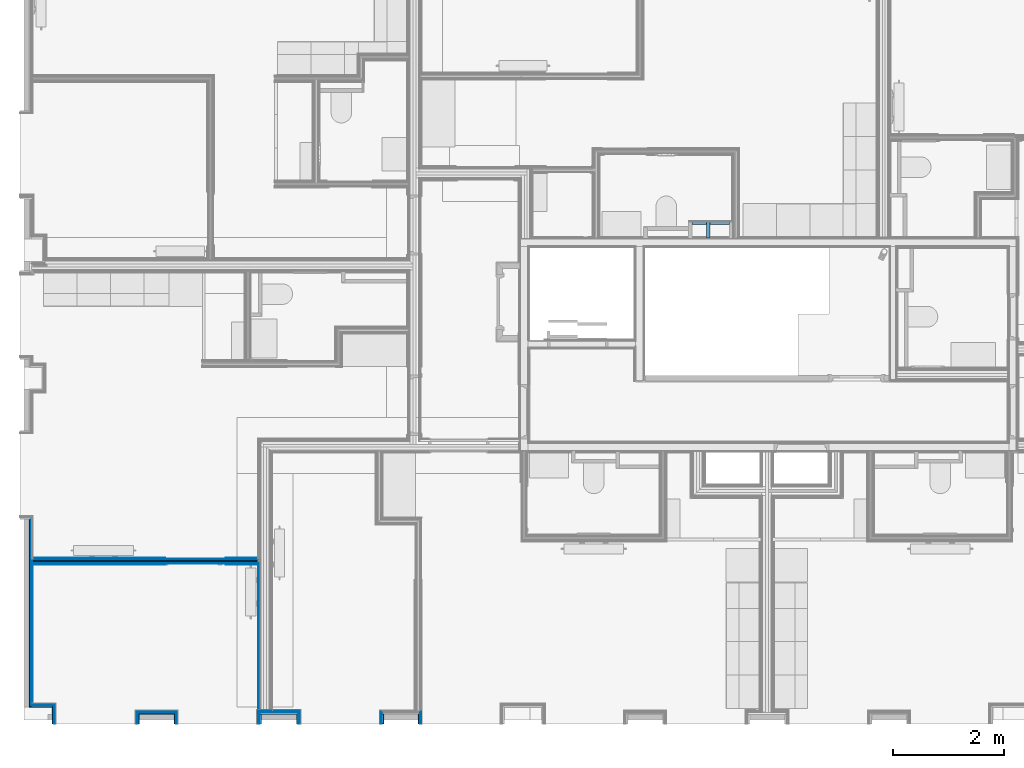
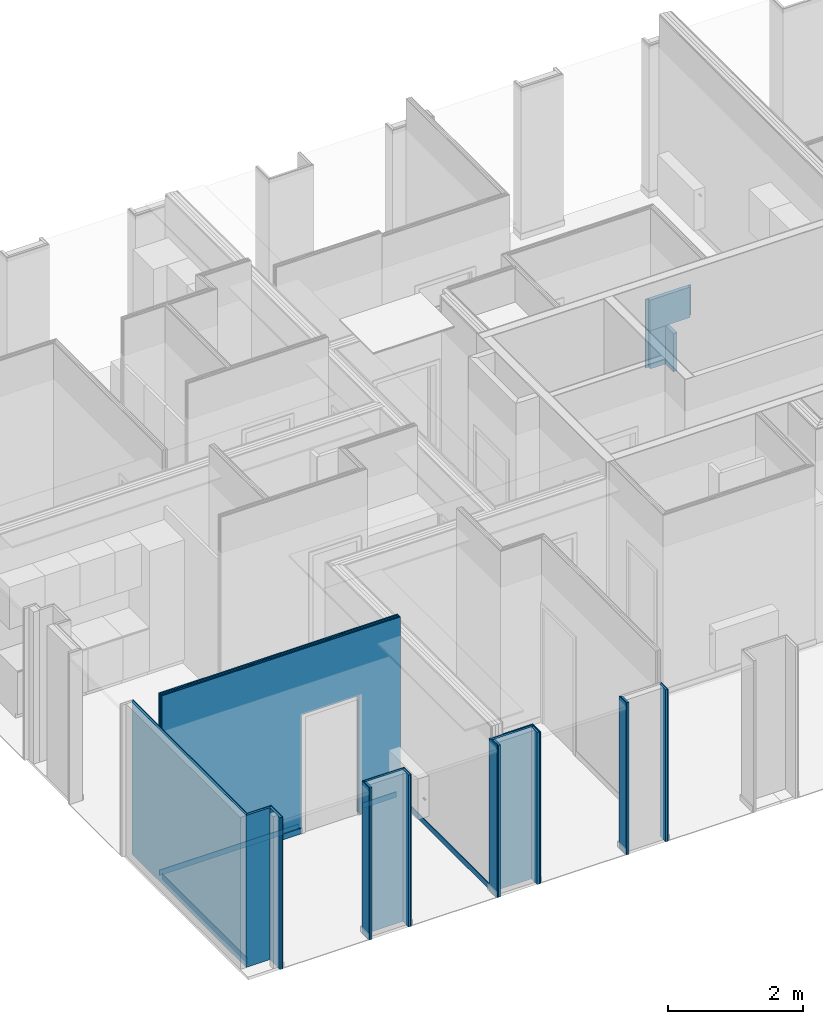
# One storey, part 9 of 64: 36 building element parts, 3 walls, 1 opening, 13 elements without a shape of their own.
"""IFC2X3 building model written with IfcOpenShell, lengths in metres."""

from ifc_helpers import new_model, entity, si_unit, converted_unit, derived_unit, money_unit, direction, frame, frame_2d, origin_with_axes, place, context, subcontext, project, spatial, polyline, rectangle, outline, extrude, material, layer, layer_set, layer_usage, type_object, element, aggregate, save


model = new_model("IFC2X3")

# Units and contexts
model_context = context("Model", 3, precision=1e-05, world=origin_with_axes(), true_north=direction((0.0, 1.0)))
body_context = subcontext(model_context, "Body", "Model", "MODEL_VIEW", scale=1.0)
ifc_project = project(units=[si_unit("LENGTHUNIT", "METRE"), si_unit("AREAUNIT", "SQUARE_METRE"), si_unit("VOLUMEUNIT", "CUBIC_METRE"), si_unit("ABSORBEDDOSEUNIT", "GRAY"), si_unit("AMOUNTOFSUBSTANCEUNIT", "MOLE"), si_unit("DOSEEQUIVALENTUNIT", "SIEVERT"), si_unit("ELECTRICCAPACITANCEUNIT", "FARAD"), si_unit("ELECTRICCHARGEUNIT", "COULOMB"), si_unit("ELECTRICCONDUCTANCEUNIT", "SIEMENS"), si_unit("ELECTRICCURRENTUNIT", "AMPERE"), si_unit("ELECTRICRESISTANCEUNIT", "OHM"), si_unit("ELECTRICVOLTAGEUNIT", "VOLT"), si_unit("ENERGYUNIT", "JOULE"), si_unit("FORCEUNIT", "NEWTON"), si_unit("FREQUENCYUNIT", "HERTZ"), si_unit("ILLUMINANCEUNIT", "LUX"), si_unit("INDUCTANCEUNIT", "HENRY"), si_unit("LUMINOUSFLUXUNIT", "LUMEN"), si_unit("LUMINOUSINTENSITYUNIT", "CANDELA"), si_unit("MAGNETICFLUXDENSITYUNIT", "TESLA"), si_unit("MAGNETICFLUXUNIT", "WEBER"), si_unit("MASSUNIT", "GRAM"), converted_unit("PLANEANGLEUNIT", "degree", entity("IfcReal", 0.0174532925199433), si_unit("PLANEANGLEUNIT", "RADIAN"), dimensions=[0, 0, 0, 0, 0, 0, 0]), si_unit("POWERUNIT", "WATT"), si_unit("PRESSUREUNIT", "PASCAL"), si_unit("RADIOACTIVITYUNIT", "BECQUEREL"), si_unit("SOLIDANGLEUNIT", "STERADIAN"), si_unit("THERMODYNAMICTEMPERATUREUNIT", "KELVIN"), si_unit("TIMEUNIT", "SECOND"), derived_unit("ACCELERATIONUNIT", [(si_unit("LENGTHUNIT", "METRE"), 1), (si_unit("TIMEUNIT", "SECOND"), -2)]), derived_unit("ANGULARVELOCITYUNIT", [(converted_unit("PLANEANGLEUNIT", "degree", entity("IfcReal", 0.0174532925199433), si_unit("PLANEANGLEUNIT", "RADIAN"), dimensions=[0, 0, 0, 0, 0, 0, 0]), 1), (si_unit("TIMEUNIT", "SECOND"), -1)]), derived_unit("CURVATUREUNIT", [(converted_unit("PLANEANGLEUNIT", "degree", entity("IfcReal", 0.0174532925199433), si_unit("PLANEANGLEUNIT", "RADIAN"), dimensions=[0, 0, 0, 0, 0, 0, 0]), 1), (si_unit("LENGTHUNIT", "METRE"), -1)]), derived_unit("DYNAMICVISCOSITYUNIT", [(si_unit("PRESSUREUNIT", "PASCAL"), 1), (si_unit("TIMEUNIT", "SECOND"), 1)]), derived_unit("HEATFLUXDENSITYUNIT", [(si_unit("POWERUNIT", "WATT"), 1), (si_unit("LENGTHUNIT", "METRE"), -2)]), derived_unit("HEATINGVALUEUNIT", [(si_unit("ENERGYUNIT", "JOULE"), 1), (si_unit("MASSUNIT", "GRAM"), -1)]), derived_unit("INTEGERCOUNTRATEUNIT", [(si_unit("TIMEUNIT", "SECOND"), -1)]), derived_unit("IONCONCENTRATIONUNIT", [(si_unit("MASSUNIT", "GRAM"), 1), (si_unit("VOLUMEUNIT", "CUBIC_METRE"), -1)]), derived_unit("ISOTHERMALMOISTURECAPACITYUNIT", [(si_unit("VOLUMEUNIT", "CUBIC_METRE"), 1), (si_unit("MASSUNIT", "GRAM"), -1)]), derived_unit("KINEMATICVISCOSITYUNIT", [(si_unit("AREAUNIT", "SQUARE_METRE"), 1), (si_unit("TIMEUNIT", "SECOND"), -1)]), derived_unit("LINEARFORCEUNIT", [(si_unit("FORCEUNIT", "NEWTON"), 1), (si_unit("LENGTHUNIT", "METRE"), -1)]), derived_unit("LINEARMOMENTUNIT", [(si_unit("FORCEUNIT", "NEWTON"), 1), (si_unit("LENGTHUNIT", "METRE"), -1)]), derived_unit("LINEARSTIFFNESSUNIT", [(si_unit("FORCEUNIT", "NEWTON"), 1), (si_unit("LENGTHUNIT", "METRE"), -1)]), derived_unit("LINEARVELOCITYUNIT", [(si_unit("LENGTHUNIT", "METRE"), 1), (si_unit("TIMEUNIT", "SECOND"), -1)]), derived_unit("LUMINOUSINTENSITYDISTRIBUTIONUNIT", [(si_unit("LUMINOUSINTENSITYUNIT", "CANDELA"), 1), (si_unit("LUMINOUSFLUXUNIT", "LUMEN"), -1)]), derived_unit("MASSDENSITYUNIT", [(si_unit("MASSUNIT", "GRAM"), 1), (si_unit("VOLUMEUNIT", "CUBIC_METRE"), -1)]), derived_unit("MASSFLOWRATEUNIT", [(si_unit("MASSUNIT", "GRAM"), 1), (si_unit("TIMEUNIT", "SECOND"), -1)]), derived_unit("MASSPERLENGTHUNIT", [(si_unit("MASSUNIT", "GRAM"), 1), (si_unit("LENGTHUNIT", "METRE"), -1)]), derived_unit("MODULUSOFELASTICITYUNIT", [(si_unit("FORCEUNIT", "NEWTON"), 1), (si_unit("AREAUNIT", "SQUARE_METRE"), -1)]), derived_unit("MODULUSOFLINEARSUBGRADEREACTIONUNIT", [(si_unit("FORCEUNIT", "NEWTON"), 1), (si_unit("LENGTHUNIT", "METRE"), -2)]), derived_unit("MODULUSOFROTATIONALSUBGRADEREACTIONUNIT", [(si_unit("FORCEUNIT", "NEWTON"), 1), (si_unit("LENGTHUNIT", "METRE"), 1)]), derived_unit("MODULUSOFSUBGRADEREACTIONUNIT", [(si_unit("FORCEUNIT", "NEWTON"), 1), (si_unit("VOLUMEUNIT", "CUBIC_METRE"), -1)]), derived_unit("MOISTUREDIFFUSIVITYUNIT", [(si_unit("VOLUMEUNIT", "CUBIC_METRE"), 1), (si_unit("TIMEUNIT", "SECOND"), -1)]), derived_unit("MOLECULARWEIGHTUNIT", [(si_unit("MASSUNIT", "GRAM"), 1), (si_unit("AMOUNTOFSUBSTANCEUNIT", "MOLE"), -1)]), derived_unit("PLANARFORCEUNIT", [(si_unit("FORCEUNIT", "NEWTON"), 1), (si_unit("LENGTHUNIT", "METRE"), -2)]), derived_unit("ROTATIONALFREQUENCYUNIT", [(si_unit("TIMEUNIT", "SECOND"), -1)]), derived_unit("ROTATIONALMASSUNIT", [(si_unit("MASSUNIT", "GRAM"), 1), (si_unit("LENGTHUNIT", "METRE"), 2)]), derived_unit("ROTATIONALSTIFFNESSUNIT", [(si_unit("FORCEUNIT", "NEWTON"), 1), (si_unit("LENGTHUNIT", "METRE"), 1), (converted_unit("PLANEANGLEUNIT", "degree", entity("IfcReal", 0.0174532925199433), si_unit("PLANEANGLEUNIT", "RADIAN"), dimensions=[0, 0, 0, 0, 0, 0, 0]), -1)]), derived_unit("SECTIONAREAINTEGRALUNIT", [(si_unit("LENGTHUNIT", "METRE"), 5)]), derived_unit("SECTIONMODULUSUNIT", [(si_unit("LENGTHUNIT", "METRE"), 3)]), derived_unit("SHEARMODULUSUNIT", [(si_unit("FORCEUNIT", "NEWTON"), 1), (si_unit("AREAUNIT", "SQUARE_METRE"), -1)]), derived_unit("SOUNDPOWERUNIT", [(si_unit("ENERGYUNIT", "JOULE"), 1), (si_unit("TIMEUNIT", "SECOND"), -1)]), derived_unit("SPECIFICHEATCAPACITYUNIT", [(si_unit("FORCEUNIT", "NEWTON"), 1), (si_unit("MASSUNIT", "GRAM"), -1), (si_unit("THERMODYNAMICTEMPERATUREUNIT", "KELVIN"), -1)]), derived_unit("TEMPERATUREGRADIENTUNIT", [(si_unit("THERMODYNAMICTEMPERATUREUNIT", "KELVIN"), 1), (si_unit("LENGTHUNIT", "METRE"), -1)]), derived_unit("THERMALADMITTANCEUNIT", [(si_unit("POWERUNIT", "WATT"), 1), (si_unit("AREAUNIT", "SQUARE_METRE"), -1), (si_unit("THERMODYNAMICTEMPERATUREUNIT", "KELVIN"), -1)]), derived_unit("THERMALCONDUCTANCEUNIT", [(si_unit("POWERUNIT", "WATT"), 1), (si_unit("LENGTHUNIT", "METRE"), -1), (si_unit("THERMODYNAMICTEMPERATUREUNIT", "KELVIN"), -1)]), derived_unit("THERMALEXPANSIONCOEFFICIENTUNIT", [(si_unit("THERMODYNAMICTEMPERATUREUNIT", "KELVIN"), -1)]), derived_unit("THERMALRESISTANCEUNIT", [(si_unit("AREAUNIT", "SQUARE_METRE"), 1), (si_unit("POWERUNIT", "WATT"), -1)]), derived_unit("THERMALTRANSMITTANCEUNIT", [(si_unit("POWERUNIT", "WATT"), 1), (si_unit("AREAUNIT", "SQUARE_METRE"), -1), (si_unit("THERMODYNAMICTEMPERATUREUNIT", "KELVIN"), -1)]), derived_unit("TORQUEUNIT", [(si_unit("FORCEUNIT", "NEWTON"), 1), (si_unit("LENGTHUNIT", "METRE"), 1)]), derived_unit("VAPORPERMEABILITYUNIT", [(si_unit("MASSUNIT", "GRAM"), 1), (si_unit("TIMEUNIT", "SECOND"), -1)]), derived_unit("VOLUMETRICFLOWRATEUNIT", [(si_unit("VOLUMEUNIT", "CUBIC_METRE"), 1), (si_unit("TIMEUNIT", "SECOND"), -1)]), derived_unit("WARPINGCONSTANTUNIT", [(si_unit("LENGTHUNIT", "METRE"), 6)]), derived_unit("WARPINGMOMENTUNIT", [(si_unit("FORCEUNIT", "NEWTON"), 1), (si_unit("LENGTHUNIT", "METRE"), 2)]), money_unit("GBP")], contexts=[model_context])

# Site, building, storey
site_placement = place(None, origin_with_axes())
site = spatial("IfcSite", under=ifc_project, at=site_placement, Name="Site", CompositionType="ELEMENT")
building_placement = place(site_placement, origin_with_axes())
building = spatial("IfcBuilding", under=site, at=building_placement, Name="Building01", CompositionType="ELEMENT")
storey_placement = place(building_placement, frame((0.0, 0.0, 8.64), z_axis=(0.0, 0.0, 1.0), x_axis=(1.0, 0.0, 0.0)))
storey = spatial("IfcBuildingStorey", under=building, at=storey_placement, Name="2F", CompositionType="ELEMENT", Elevation=8.64)

# Walls
ifc_material_1 = material(Name="A_BSUK_OpeningsClearance")
ifc_layer_1 = layer(ifc_material_1, 0.05, ventilated=False)
ifc_material_2 = material(Name="A_BSUK_Walls_Timber")
ifc_layer_2 = layer(ifc_material_2, 0.015, ventilated=False)
ifc_layer_set = layer_set([ifc_layer_1, ifc_layer_2])
ifc_layer_usage = layer_usage(ifc_layer_set, "AXIS2", "POSITIVE", 0.0)
wall_type_1 = type_object("IfcWallType", Name="SHE_A-Walls_Type05c_PreWallShell_65mm", PredefinedType="NOTDEFINED")
wall_1_placement = place(storey_placement, frame((12.153871, 9.055, 2.065), z_axis=(0.0, 0.0, 1.0), x_axis=(1.0, 0.0, 0.0)))
element("IfcWallStandardCase", 1, at=wall_1_placement, inside=storey, type_object=wall_type_1, material=ifc_layer_usage, Name="5C", ObjectType="SHE_A-Walls_Type05c_PreWallShell_65mm", context=body_context, shape_type="SweptSolid", body=[
    extrude(outline(polyline([(0.674714, 0.05), (0.724714, 0.05), (0.724714, 0.065), (-0.05, 0.065), (-0.05, 0.05), (0.0, 0.05), (0.0, 0.0), (0.674714, 0.0), (0.674714, 0.05)])), origin_with_axes(), (0.0, 0.0, 1.0), 0.55),
])
wall_2_placement = place(storey_placement, frame((12.153871, 9.055, 1.375), z_axis=(0.0, 0.0, 1.0), x_axis=(1.0, 0.0, 0.0)))
element("IfcWallStandardCase", 2, at=wall_2_placement, inside=storey, type_object=wall_type_1, material=ifc_layer_usage, Name="5C", ObjectType="SHE_A-Walls_Type05c_PreWallShell_65mm", context=body_context, shape_type="SweptSolid", body=[
    extrude(outline(polyline([(0.259714, 0.05), (0.309714, 0.05), (0.309714, 0.065), (-0.05, 0.065), (-0.05, 0.05), (0.0, 0.05), (0.0, 0.0), (0.259714, 0.0), (0.259714, 0.05)])), origin_with_axes(), (0.0, 0.0, 1.0), 0.69),
])
wall_3_placement = place(storey_placement, frame((12.413585, 9.105, 1.375), z_axis=(0.0, 0.0, 1.0), x_axis=(0.0, -1.0, 0.0)))
element("IfcWallStandardCase", 3, at=wall_3_placement, inside=storey, type_object=wall_type_1, material=ifc_layer_usage, Name="5C", ObjectType="SHE_A-Walls_Type05c_PreWallShell_65mm", context=body_context, shape_type="SweptSolid", body=[
    extrude(outline(polyline([(0.285, 0.065), (-0.015, 0.065), (-0.015, 0.05), (0.0, 0.05), (0.0, 0.0), (0.285, 0.0), (0.285, 0.065)])), origin_with_axes(), (0.0, 0.0, 1.0), 0.69),
])

# Wall, building element parts
wall_type_2 = type_object("IfcWallType", Name="SHE_A-Walls_Type06d_ExternalWallInsulation_48mm", PredefinedType="NOTDEFINED")
wall_4_placement = place(storey_placement, frame((0.27, 0.4, 0.0), z_axis=(0.0, 0.0, 1.0), x_axis=(1.0, 0.0, 0.0)))
wall_4 = element("IfcWall", 4, at=wall_4_placement, inside=storey, type_object=wall_type_2, Name="6D", ObjectType="SHE_A-Walls_Type06d_ExternalWallInsulation_48mm")
ifc_material_3 = material(Name="A_BSUK_Insulation")
placement_1 = place(wall_4_placement, origin_with_axes())
building_element_part_1 = element("IfcBuildingElementPart", 5, at=placement_1, material=ifc_material_3, Name="1", context=body_context, shape_type="SweptSolid", body=[
    extrude(outline(polyline([(0.443, 0.036), (0.036, 0.036), (0.0, 0.0), (0.407, 0.0), (0.443, 0.036)])), origin_with_axes(), (0.0, 0.0, 1.0), 2.74),
])
ifc_material_4 = material(Name="A_BSUK_WallInternal_Finishes_Plasterboard")
building_element_part_2 = element("IfcBuildingElementPart", 6, at=placement_1, material=ifc_material_4, Name="2", context=body_context, shape_type="SweptSolid", body=[
    extrude(outline(polyline([(0.455, 0.048), (0.048, 0.048), (0.035, 0.035), (0.442, 0.035), (0.455, 0.048)])), origin_with_axes(), (0.0, 0.0, 1.0), 2.74),
])
aggregate(wall_4, [building_element_part_1, building_element_part_2])

wall_5_placement = place(storey_placement, frame((0.677, 0.4, 0.0), z_axis=(0.0, 0.0, 1.0), x_axis=(0.0, -1.0, 0.0)))
wall_5 = element("IfcWall", 7, at=wall_5_placement, inside=storey, type_object=wall_type_2, Name="6D", ObjectType="SHE_A-Walls_Type06d_ExternalWallInsulation_48mm")
placement_2 = place(wall_5_placement, origin_with_axes())
building_element_part_3 = element("IfcBuildingElementPart", 8, at=placement_2, material=ifc_material_3, Name="1", context=body_context, shape_type="SweptSolid", body=[
    extrude(outline(polyline([(-0.036, 0.036), (0.0, 0.0), (0.3, 0.0), (0.3, 0.036), (-0.036, 0.036)])), origin_with_axes(), (0.0, 0.0, 1.0), 2.74),
])
building_element_part_4 = element("IfcBuildingElementPart", 9, at=placement_2, material=ifc_material_4, Name="2", context=body_context, shape_type="SweptSolid", body=[
    extrude(outline(polyline([(-0.048, 0.048), (-0.035, 0.035), (0.3, 0.035), (0.3, 0.048), (-0.048, 0.048)])), origin_with_axes(), (0.0, 0.0, 1.0), 2.74),
])
aggregate(wall_5, [building_element_part_3, building_element_part_4])

wall_6_placement = place(storey_placement, frame((2.243, 0.1, 0.0), z_axis=(0.0, 0.0, 1.0), x_axis=(0.0, 1.0, 0.0)))
wall_6 = element("IfcWall", 10, at=wall_6_placement, inside=storey, type_object=wall_type_2, Name="6D", ObjectType="SHE_A-Walls_Type06d_ExternalWallInsulation_48mm")
placement_3 = place(wall_6_placement, origin_with_axes())
building_element_part_5 = element("IfcBuildingElementPart", 11, at=placement_3, material=ifc_material_3, Name="1", context=body_context, shape_type="SweptSolid", body=[
    extrude(outline(polyline([(0.206, 0.036), (0.0, 0.036), (0.0, 0.0), (0.17, 0.0), (0.206, 0.036)])), origin_with_axes(), (0.0, 0.0, 1.0), 2.74),
])
building_element_part_6 = element("IfcBuildingElementPart", 12, at=placement_3, material=ifc_material_4, Name="2", context=body_context, shape_type="SweptSolid", body=[
    extrude(outline(polyline([(0.218, 0.048), (0.0, 0.048), (0.0, 0.035), (0.205, 0.035), (0.218, 0.048)])), origin_with_axes(), (0.0, 0.0, 1.0), 2.74),
])
aggregate(wall_6, [building_element_part_5, building_element_part_6])

wall_7_placement = place(storey_placement, frame((2.243, 0.27, 0.0), z_axis=(0.0, 0.0, 1.0), x_axis=(1.0, 0.0, 0.0)))
wall_7 = element("IfcWall", 13, at=wall_7_placement, inside=storey, type_object=wall_type_2, Name="6D", ObjectType="SHE_A-Walls_Type06d_ExternalWallInsulation_48mm")
placement_4 = place(wall_7_placement, origin_with_axes())
building_element_part_7 = element("IfcBuildingElementPart", 14, at=placement_4, material=ifc_material_3, Name="1", context=body_context, shape_type="SweptSolid", body=[
    extrude(outline(polyline([(0.66, 0.036), (-0.036, 0.036), (0.0, 0.0), (0.624, 0.0), (0.66, 0.036)])), origin_with_axes(), (0.0, 0.0, 1.0), 2.74),
])
building_element_part_8 = element("IfcBuildingElementPart", 15, at=placement_4, material=ifc_material_4, Name="2", context=body_context, shape_type="SweptSolid", body=[
    extrude(outline(polyline([(0.672, 0.048), (-0.048, 0.048), (-0.035, 0.035), (0.659, 0.035), (0.672, 0.048)])), origin_with_axes(), (0.0, 0.0, 1.0), 2.74),
])
aggregate(wall_7, [building_element_part_7, building_element_part_8])

wall_8_placement = place(storey_placement, frame((2.867, 0.27, 0.0), z_axis=(0.0, 0.0, 1.0), x_axis=(0.0, -1.0, 0.0)))
wall_8 = element("IfcWall", 16, at=wall_8_placement, inside=storey, type_object=wall_type_2, Name="6D", ObjectType="SHE_A-Walls_Type06d_ExternalWallInsulation_48mm")
placement_5 = place(wall_8_placement, origin_with_axes())
building_element_part_9 = element("IfcBuildingElementPart", 17, at=placement_5, material=ifc_material_3, Name="1", context=body_context, shape_type="SweptSolid", body=[
    extrude(outline(polyline([(-0.036, 0.036), (0.0, 0.0), (0.17, 0.0), (0.17, 0.036), (-0.036, 0.036)])), origin_with_axes(), (0.0, 0.0, 1.0), 2.74),
])
building_element_part_10 = element("IfcBuildingElementPart", 18, at=placement_5, material=ifc_material_4, Name="2", context=body_context, shape_type="SweptSolid", body=[
    extrude(outline(polyline([(-0.048, 0.048), (-0.035, 0.035), (0.17, 0.035), (0.17, 0.048), (-0.048, 0.048)])), origin_with_axes(), (0.0, 0.0, 1.0), 2.74),
])
aggregate(wall_8, [building_element_part_9, building_element_part_10])

wall_9_placement = place(storey_placement, frame((6.623, 0.1, 0.0), z_axis=(0.0, 0.0, 1.0), x_axis=(0.0, 1.0, 0.0)))
wall_9 = element("IfcWall", 19, at=wall_9_placement, inside=storey, type_object=wall_type_2, Name="6D", ObjectType="SHE_A-Walls_Type06d_ExternalWallInsulation_48mm")
placement_6 = place(wall_9_placement, origin_with_axes())
building_element_part_11 = element("IfcBuildingElementPart", 20, at=placement_6, material=ifc_material_3, Name="1", context=body_context, shape_type="SweptSolid", body=[
    extrude(outline(polyline([(0.206, 0.036), (0.0, 0.036), (0.0, 0.0), (0.17, 0.0), (0.206, 0.036)])), origin_with_axes(), (0.0, 0.0, 1.0), 2.74),
])
building_element_part_12 = element("IfcBuildingElementPart", 21, at=placement_6, material=ifc_material_4, Name="2", context=body_context, shape_type="SweptSolid", body=[
    extrude(outline(polyline([(0.218, 0.048), (0.0, 0.048), (0.0, 0.035), (0.205, 0.035), (0.218, 0.048)])), origin_with_axes(), (0.0, 0.0, 1.0), 2.74),
])
aggregate(wall_9, [building_element_part_11, building_element_part_12])

wall_10_placement = place(storey_placement, frame((7.247, 0.27, 0.0), z_axis=(0.0, 0.0, 1.0), x_axis=(0.0, -1.0, 0.0)))
wall_10 = element("IfcWall", 22, at=wall_10_placement, inside=storey, type_object=wall_type_2, Name="6D", ObjectType="SHE_A-Walls_Type06d_ExternalWallInsulation_48mm")
placement_7 = place(wall_10_placement, origin_with_axes())
building_element_part_13 = element("IfcBuildingElementPart", 23, at=placement_7, material=ifc_material_3, Name="1", context=body_context, shape_type="SweptSolid", body=[
    extrude(outline(polyline([(-0.036, 0.036), (0.0, 0.0), (0.17, 0.0), (0.17, 0.036), (-0.036, 0.036)])), origin_with_axes(), (0.0, 0.0, 1.0), 2.74),
])
building_element_part_14 = element("IfcBuildingElementPart", 24, at=placement_7, material=ifc_material_4, Name="2", context=body_context, shape_type="SweptSolid", body=[
    extrude(outline(polyline([(-0.048, 0.048), (-0.035, 0.035), (0.17, 0.035), (0.17, 0.048), (-0.048, 0.048)])), origin_with_axes(), (0.0, 0.0, 1.0), 2.74),
])
aggregate(wall_10, [building_element_part_13, building_element_part_14])

wall_11_placement = place(storey_placement, frame((0.27, 3.77418, 0.0), z_axis=(0.0, 0.0, 1.0), x_axis=(0.0, -1.0, 0.0)))
wall_11 = element("IfcWall", 25, at=wall_11_placement, inside=storey, type_object=wall_type_2, Name="6D", ObjectType="SHE_A-Walls_Type06d_ExternalWallInsulation_48mm")
placement_8 = place(wall_11_placement, origin_with_axes())
building_element_part_15 = element("IfcBuildingElementPart", 26, at=placement_8, material=ifc_material_3, Name="1", context=body_context, shape_type="SweptSolid", body=[
    extrude(outline(polyline([(3.33818, 0.036), (-0.036, 0.036), (0.0, 0.0), (3.37418, 0.0), (3.33818, 0.036)])), origin_with_axes(), (0.0, 0.0, 1.0), 2.74),
])
building_element_part_16 = element("IfcBuildingElementPart", 27, at=placement_8, material=ifc_material_4, Name="2", context=body_context, shape_type="SweptSolid", body=[
    extrude(outline(polyline([(3.32618, 0.048), (-0.048, 0.048), (-0.035, 0.035), (3.33918, 0.035), (3.32618, 0.048)])), origin_with_axes(), (0.0, 0.0, 1.0), 2.74),
])
building_element_part_17 = element("IfcBuildingElementPart", 28, at=placement_8, material=ifc_material_2, Name="4", context=body_context, shape_type="SweptSolid", body=[
    extrude(outline(polyline([(3.31118, 0.063), (0.803894, 0.063), (0.803894, 0.048), (3.32618, 0.048), (3.31118, 0.063)])), frame((0.0, 0.0, 0.015), z_axis=(0.0, 0.0, 1.0), x_axis=(1.0, 0.0, 0.0)), (0.0, 0.0, 1.0), 0.1),
])
aggregate(wall_11, [building_element_part_15, building_element_part_16, building_element_part_17])

# Wall, building element part
wall_type_3 = type_object("IfcWallType", Name="SHE_A-Walls_Type01c_Partywall_225mm_twin_tall", PredefinedType="NOTDEFINED")
wall_12_placement = place(storey_placement, frame((4.522, 0.318, 0.0), z_axis=(0.0, 0.0, 1.0), x_axis=(0.0, 1.0, 0.0)))
wall_12 = element("IfcWall", 29, at=wall_12_placement, inside=storey, type_object=wall_type_3, Name="1C", ObjectType="SHE_A-Walls_Type01c_Partywall_225mm_twin_tall")
building_element_part_18_placement = place(wall_12_placement, origin_with_axes())
building_element_part_18 = element("IfcBuildingElementPart", 30, at=building_element_part_18_placement, material=ifc_material_2, Name="9", context=body_context, shape_type="SweptSolid", body=[
    extrude(rectangle(XDim=2.700286, YDim=0.015, at=frame_2d((1.302143, 0.1445), x_axis=(-1.0, 0.0))), frame((0.0, 0.0, 0.015), z_axis=(0.0, 0.0, 1.0), x_axis=(1.0, 0.0, 0.0)), (0.0, 0.0, 1.0), 0.1),
])
aggregate(wall_12, [building_element_part_18])

# Wall, opening, building element parts
wall_type_4 = type_object("IfcWallType", Name="SHE_A-Walls_Type05a_Partition_95mm_tall", PredefinedType="NOTDEFINED")
wall_13_placement = place(storey_placement, frame((0.318, 3.030286, 0.0), z_axis=(0.0, 0.0, 1.0), x_axis=(1.0, 0.0, 0.0)))
wall_13 = element("IfcWall", 31, at=wall_13_placement, inside=storey, type_object=wall_type_4, Name="5A", ObjectType="SHE_A-Walls_Type05a_Partition_95mm_tall")
opening_placement = place(wall_13_placement, frame((2.391, -0.075, -0.03), z_axis=(0.0, 0.0, 1.0), x_axis=(1.0, 0.0, 0.0)))
element("IfcOpeningElement", 32, at=opening_placement, cuts=wall_13, Name="Opening", ObjectType="Opening", context=body_context, shape_type="SweptSolid", body=[
    extrude(outline(polyline([(-0.984, 0.0), (-0.099, 0.0), (-0.099, 0.03), (0.0, 0.03), (0.0, 2.172), (-0.984, 2.172), (-0.984, 0.0)])), frame((0.0, 0.0, 0.0), z_axis=(0.0, 1.0, 0.0), x_axis=(-1.0, 0.0, 0.0)), (0.0, 0.0, 1.0), 0.125),
    extrude(rectangle(XDim=0.984, YDim=2.172, at=frame_2d((-0.492, 1.086), x_axis=(1.0, 0.0))), frame((0.0, 0.015, 0.0), z_axis=(0.0, 1.0, 0.0), x_axis=(-1.0, 0.0, 0.0)), (0.0, 0.0, 1.0), 0.012),
    extrude(outline(polyline([(-0.099, 0.03), (0.0, 0.03), (0.0, 2.172), (-0.984, 2.172), (-0.984, 2.142), (-1.083, 2.142), (-1.083, 0.0), (-0.099, 0.0), (-0.099, 0.03)])), frame((0.0, 0.0, 0.0), z_axis=(0.0, 1.0, 0.0), x_axis=(-1.0, 0.0, 0.0)), (0.0, 0.0, 1.0), 0.015),
    extrude(rectangle(XDim=0.984, YDim=2.172, at=frame_2d((-0.492, 1.086), x_axis=(1.0, 0.0))), frame((0.0, 0.027, 0.0), z_axis=(0.0, 1.0, 0.0), x_axis=(-1.0, 0.0, 0.0)), (0.0, 0.0, 1.0), 0.023),
    extrude(outline(polyline([(-0.984, 0.0), (-0.042, 0.0), (-0.042, 0.03), (0.0, 0.03), (0.0, 2.172), (-0.984, 2.172), (-0.984, 0.0)])), frame((0.0, 0.05, 0.0), z_axis=(0.0, 1.0, 0.0), x_axis=(-1.0, 0.0, 0.0)), (0.0, 0.0, 1.0), 0.025),
    extrude(outline(polyline([(-0.984, 0.0), (-0.042, 0.0), (-0.042, 0.03), (0.0, 0.03), (0.0, 2.172), (-0.984, 2.172), (-0.984, 0.0)])), frame((0.0, 0.075, 0.0), z_axis=(0.0, 1.0, 0.0), x_axis=(-1.0, 0.0, 0.0)), (0.0, 0.0, 1.0), 0.023),
    extrude(outline(polyline([(-0.984, 0.0), (-0.042, 0.0), (-0.042, 0.03), (0.0, 0.03), (0.0, 2.172), (-0.984, 2.172), (-0.984, 0.0)])), frame((0.0, 0.098, 0.0), z_axis=(0.0, 1.0, 0.0), x_axis=(-1.0, 0.0, 0.0)), (0.0, 0.0, 1.0), 0.012),
    extrude(outline(polyline([(-0.099, 0.03), (0.0, 0.03), (0.0, 2.172), (-0.984, 2.172), (-0.984, 2.142), (-1.083, 2.142), (-1.083, 0.0), (-0.099, 0.0), (-0.099, 0.03)])), frame((0.0, 0.11, 0.0), z_axis=(0.0, 1.0, 0.0), x_axis=(-1.0, 0.0, 0.0)), (0.0, 0.0, 1.0), 0.015),
])
placement_9 = place(wall_13_placement, origin_with_axes())
building_element_part_19 = element("IfcBuildingElementPart", 33, at=placement_9, material=ifc_material_2, Name="1", context=body_context, shape_type="SweptSolid", body=[
    extrude(rectangle(XDim=4.037, YDim=0.015, at=frame_2d((2.0335, -0.0675), x_axis=(-1.0, 0.0))), frame((0.0, 0.0, 0.015), z_axis=(0.0, 0.0, 1.0), x_axis=(1.0, 0.0, 0.0)), (0.0, 0.0, 1.0), 0.1),
])
building_element_part_20 = element("IfcBuildingElementPart", 34, at=placement_9, material=ifc_material_4, Name="2", context=body_context, shape_type="SweptSolid", body=[
    extrude(rectangle(XDim=4.067, YDim=0.012, at=frame_2d((2.0335, -0.054), x_axis=(-1.0, 0.0))), origin_with_axes(), (0.0, 0.0, 1.0), 3.32),
])
ifc_material_5 = material(Name="Air Cavity")
building_element_part_21 = element("IfcBuildingElementPart", 35, at=placement_9, material=ifc_material_5, Name="3", context=body_context, shape_type="SweptSolid", body=[
    extrude(rectangle(XDim=4.067, YDim=0.023, at=frame_2d((2.0335, -0.0365), x_axis=(-1.0, 0.0))), origin_with_axes(), (0.0, 0.0, 1.0), 3.32),
])
building_element_part_22 = element("IfcBuildingElementPart", 36, at=placement_9, material=ifc_material_3, Name="4", context=body_context, shape_type="SweptSolid", body=[
    extrude(rectangle(XDim=4.067, YDim=0.025, at=frame_2d((2.0335, -0.0125), x_axis=(-1.0, 0.0))), origin_with_axes(), (0.0, 0.0, 1.0), 3.32),
])
building_element_part_23 = element("IfcBuildingElementPart", 37, at=placement_9, material=ifc_material_5, Name="5", context=body_context, shape_type="SweptSolid", body=[
    extrude(rectangle(XDim=4.067, YDim=0.023, at=frame_2d((2.0335, 0.0115), x_axis=(-1.0, 0.0))), origin_with_axes(), (0.0, 0.0, 1.0), 3.32),
])
building_element_part_24 = element("IfcBuildingElementPart", 38, at=placement_9, material=ifc_material_4, Name="6", context=body_context, shape_type="SweptSolid", body=[
    extrude(rectangle(XDim=4.067, YDim=0.012, at=frame_2d((2.0335, 0.029), x_axis=(-1.0, 0.0))), origin_with_axes(), (0.0, 0.0, 1.0), 3.32),
])
building_element_part_25 = element("IfcBuildingElementPart", 39, at=placement_9, material=ifc_material_2, Name="7", context=body_context, shape_type="SweptSolid", body=[
    extrude(rectangle(XDim=4.037, YDim=0.015, at=frame_2d((2.0335, 0.0425), x_axis=(-1.0, 0.0))), frame((0.0, 0.0, 0.015), z_axis=(0.0, 0.0, 1.0), x_axis=(1.0, 0.0, 0.0)), (0.0, 0.0, 1.0), 0.1),
])
aggregate(wall_13, [building_element_part_19, building_element_part_20, building_element_part_21, building_element_part_22, building_element_part_23, building_element_part_24, building_element_part_25])

# Wall, building element parts
wall_type_5 = type_object("IfcWallType", Name="SHE_A-Walls_Type06f_ExternalWallInsulation_48+15mm", PredefinedType="NOTDEFINED")
wall_14_placement = place(storey_placement, frame((4.433, 0.27, 0.0), z_axis=(0.0, 0.0, 1.0), x_axis=(0.0, -1.0, 0.0)))
wall_14 = element("IfcWall", 40, at=wall_14_placement, inside=storey, type_object=wall_type_5, Name="6F", ObjectType="SHE_A-Walls_Type06f_ExternalWallInsulation_48+15mm")
placement_10 = place(wall_14_placement, origin_with_axes())
building_element_part_26 = element("IfcBuildingElementPart", 41, at=placement_10, material=ifc_material_4, Name="2", context=body_context, shape_type="SweptSolid", body=[
    extrude(outline(polyline([(0.17, -0.048), (-0.048, -0.048), (-0.063, -0.063), (0.17, -0.063), (0.17, -0.048)])), origin_with_axes(), (0.0, 0.0, 1.0), 2.74),
])
building_element_part_27 = element("IfcBuildingElementPart", 42, at=placement_10, material=ifc_material_4, Name="3", context=body_context, shape_type="SweptSolid", body=[
    extrude(rectangle(XDim=0.206, YDim=0.012, at=frame_2d((0.067, -0.042), x_axis=(-1.0, 0.0))), origin_with_axes(), (0.0, 0.0, 1.0), 2.74),
])
building_element_part_28 = element("IfcBuildingElementPart", 43, at=placement_10, material=ifc_material_3, Name="4", context=body_context, shape_type="SweptSolid", body=[
    extrude(rectangle(XDim=0.17, YDim=0.036, at=frame_2d((0.085, -0.018), x_axis=(-1.0, 0.0))), origin_with_axes(), (0.0, 0.0, 1.0), 2.74),
])
aggregate(wall_14, [building_element_part_26, building_element_part_27, building_element_part_28])

wall_15_placement = place(storey_placement, frame((5.093124, 0.27, 0.0), z_axis=(0.0, 0.0, 1.0), x_axis=(-1.0, 0.0, 0.0)))
wall_15 = element("IfcWall", 44, at=wall_15_placement, inside=storey, type_object=wall_type_5, Name="6F", ObjectType="SHE_A-Walls_Type06f_ExternalWallInsulation_48+15mm")
placement_11 = place(wall_15_placement, origin_with_axes())
building_element_part_29 = element("IfcBuildingElementPart", 45, at=placement_11, material=ifc_material_4, Name="3", context=body_context, shape_type="SweptSolid", body=[
    extrude(outline(polyline([(0.498124, -0.048), (-0.012, -0.048), (-0.027, -0.063), (0.483124, -0.063), (0.498124, -0.048)])), origin_with_axes(), (0.0, 0.0, 1.0), 2.74),
])
building_element_part_30 = element("IfcBuildingElementPart", 46, at=placement_11, material=ifc_material_4, Name="4", context=body_context, shape_type="SweptSolid", body=[
    extrude(outline(polyline([(0.708124, -0.048), (0.498124, -0.048), (0.483124, -0.063), (0.723124, -0.063), (0.708124, -0.048)])), origin_with_axes(), (0.0, 0.0, 1.0), 2.74),
])
building_element_part_31 = element("IfcBuildingElementPart", 47, at=placement_11, material=ifc_material_4, Name="5", context=body_context, shape_type="SweptSolid", body=[
    extrude(outline(polyline([(0.708124, -0.036), (0.510124, -0.036), (0.498124, -0.048), (0.708124, -0.048), (0.708124, -0.036)])), origin_with_axes(), (0.0, 0.0, 1.0), 2.74),
])
building_element_part_32 = element("IfcBuildingElementPart", 48, at=placement_11, material=ifc_material_4, Name="6", context=body_context, shape_type="SweptSolid", body=[
    extrude(rectangle(XDim=0.621124, YDim=0.012, at=frame_2d((0.310562, -0.042), x_axis=(-1.0, 0.0))), origin_with_axes(), (0.0, 0.0, 1.0), 2.74),
])
building_element_part_33 = element("IfcBuildingElementPart", 49, at=placement_11, material=ifc_material_3, Name="7", context=body_context, shape_type="SweptSolid", body=[
    extrude(rectangle(XDim=0.708124, YDim=0.036, at=frame_2d((0.354062, -0.018), x_axis=(-1.0, 0.0))), origin_with_axes(), (0.0, 0.0, 1.0), 2.74),
])
aggregate(wall_15, [building_element_part_29, building_element_part_30, building_element_part_31, building_element_part_32, building_element_part_33])

wall_16_placement = place(storey_placement, frame((5.057124, 0.27, 0.0), z_axis=(0.0, 0.0, 1.0), x_axis=(0.0, 1.0, 0.0)))
wall_16 = element("IfcWall", 50, at=wall_16_placement, inside=storey, type_object=wall_type_5, Name="6F", ObjectType="SHE_A-Walls_Type06f_ExternalWallInsulation_48+15mm")
placement_12 = place(wall_16_placement, origin_with_axes())
building_element_part_34 = element("IfcBuildingElementPart", 51, at=placement_12, material=ifc_material_4, Name="2", context=body_context, shape_type="SweptSolid", body=[
    extrude(outline(polyline([(-0.17, -0.063), (0.063, -0.063), (0.048, -0.048), (-0.17, -0.048), (-0.17, -0.063)])), origin_with_axes(), (0.0, 0.0, 1.0), 2.74),
])
building_element_part_35 = element("IfcBuildingElementPart", 52, at=placement_12, material=ifc_material_4, Name="3", context=body_context, shape_type="SweptSolid", body=[
    extrude(rectangle(XDim=0.218, YDim=0.012, at=frame_2d((-0.061, -0.042), x_axis=(1.0, 0.0))), origin_with_axes(), (0.0, 0.0, 1.0), 2.74),
])
building_element_part_36 = element("IfcBuildingElementPart", 53, at=placement_12, material=ifc_material_3, Name="4", context=body_context, shape_type="SweptSolid", body=[
    extrude(rectangle(XDim=0.17, YDim=0.036, at=frame_2d((-0.085, -0.018), x_axis=(1.0, 0.0))), origin_with_axes(), (0.0, 0.0, 1.0), 2.74),
])
aggregate(wall_16, [building_element_part_34, building_element_part_35, building_element_part_36])

save(model, "model.ifc")
